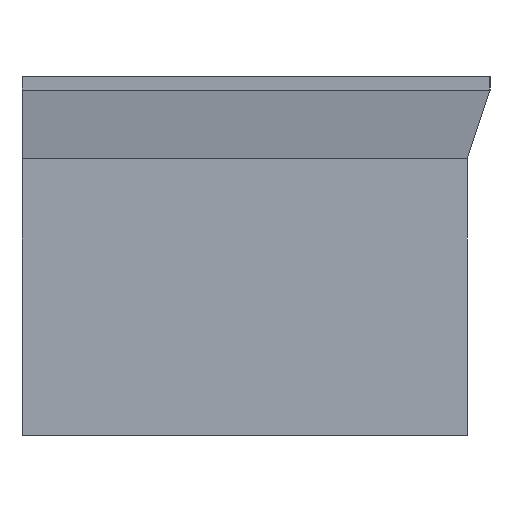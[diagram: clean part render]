
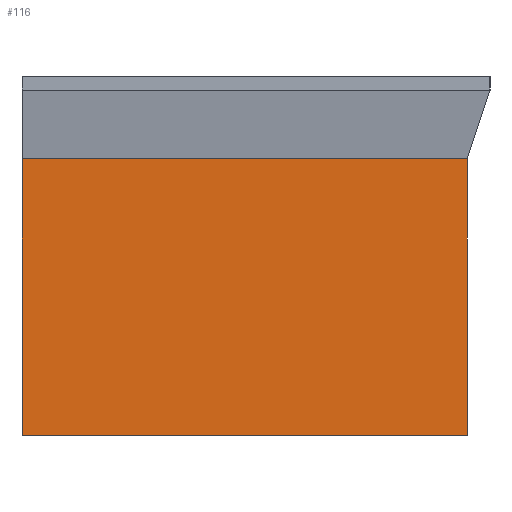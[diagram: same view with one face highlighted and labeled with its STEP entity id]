
A CAD part, front view. The second image highlights one B-rep face of the part: STEP entity #116.
In plain terms, the highlighted planar face has unit normal (0, -1, 0).
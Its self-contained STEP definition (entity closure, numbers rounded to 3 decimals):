
#116=ADVANCED_FACE('',(#291),#293,.T.);
#291=FACE_BOUND('',#292,.T.);
#292=EDGE_LOOP('',(#421,#422,#423,#424));
#293=PLANE('',#294);
#294=AXIS2_PLACEMENT_3D('',#295,#296,#297);
#295=CARTESIAN_POINT('',(-19.65,-45.25,0.));
#296=DIRECTION('',(0.,-1.,0.));
#297=DIRECTION('',(1.,0.,0.));
#421=ORIENTED_EDGE('',*,*,#517,.T.);
#422=ORIENTED_EDGE('',*,*,#518,.T.);
#423=ORIENTED_EDGE('',*,*,#519,.T.);
#424=ORIENTED_EDGE('',*,*,#520,.F.);
#517=EDGE_CURVE('',#588,#589,#590,.F.);
#518=EDGE_CURVE('',#589,#591,#592,.T.);
#519=EDGE_CURVE('',#591,#593,#594,.T.);
#520=EDGE_CURVE('',#588,#593,#595,.F.);
#588=VERTEX_POINT('',#723);
#589=VERTEX_POINT('',#724);
#590=LINE('',#725,#726);
#591=VERTEX_POINT('',#728);
#592=LINE('',#729,#730);
#593=VERTEX_POINT('',#732);
#594=LINE('',#733,#734);
#595=LINE('',#736,#737);
#723=CARTESIAN_POINT('',(-19.45,-45.25,12.1));
#724=CARTESIAN_POINT('',(-19.45,-45.25,0.));
#725=CARTESIAN_POINT('',(-19.45,-45.25,0.));
#726=VECTOR('',#727,1.);
#727=DIRECTION('',(0.,0.,1.));
#728=CARTESIAN_POINT('',(0.,-45.25,0.));
#729=CARTESIAN_POINT('',(-19.45,-45.25,0.));
#730=VECTOR('',#731,1.);
#731=DIRECTION('',(1.,0.,0.));
#732=CARTESIAN_POINT('',(0.,-45.25,12.1));
#733=CARTESIAN_POINT('',(0.,-45.25,0.));
#734=VECTOR('',#735,1.);
#735=DIRECTION('',(0.,0.,1.));
#736=CARTESIAN_POINT('',(0.,-45.25,12.1));
#737=VECTOR('',#738,1.);
#738=DIRECTION('',(-1.,0.,0.));
